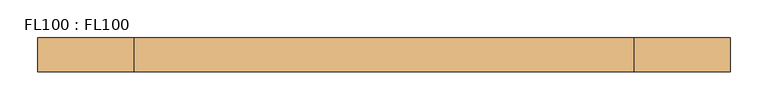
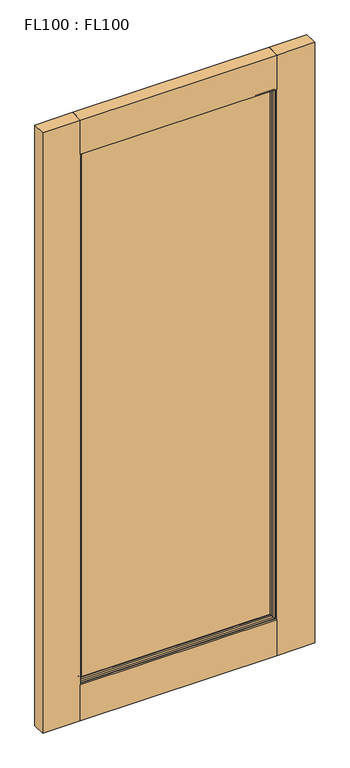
"""IFC4 building model written with IfcOpenShell, lengths in millimetres: door geometry, FL100 : FL100."""

from ifc_helpers import new_model, si_unit, frame, origin, origin_with_axes, place, context, project, spatial, polyline, ellipse_curve, outline, extrude, source, transform, mapped, element, save
from ifc_brep_helpers import plane_surface, cylinder_surface, revolved_surface, advanced_brep


def fl100_fl100_24e7efae(model_context):
    return source(origin(), model_context, "Body", "SolidModel", [
        extrude(outline(polyline([(787.4, 44.45), (787.4, 0.0), (127.0, 0.0), (127.0, 44.45), (787.4, 44.45)])), frame((0.0, 0.0, 2011.7389588), z_axis=(0.0, 0.0, 1.0), x_axis=(1.0, 0.0, 0.0)), (0.0, 0.0, 1.0), 121.8610412),
        extrude(outline(polyline([(787.4, 44.45), (787.4, 0.0), (127.0, 0.0), (127.0, 44.45), (787.4, 44.45)])), origin_with_axes(), (0.0, 0.0, 1.0), 127.0),
        extrude(outline(polyline([(127.0, 19.05), (127.0, 25.4), (787.4, 25.4), (787.4, 19.05), (127.0, 19.05)])), frame((0.0, 0.0, 127.0), z_axis=(0.0, 0.0, 1.0), x_axis=(1.0, 0.0, 0.0)), (0.0, 0.0, 1.0), 1884.7389588),
        extrude(outline(polyline([(127.0, 44.45), (127.0, 0.0), (0.0, 0.0), (0.0, 44.45), (127.0, 44.45)])), origin_with_axes(), (0.0, 0.0, 1.0), 2133.6),
        extrude(outline(polyline([(914.4, 44.45), (914.4, 0.0), (787.4, 0.0), (787.4, 44.45), (914.4, 44.45)])), origin_with_axes(), (0.0, 0.0, 1.0), 2133.6),
        advanced_brep(
        [(787.4, 6.35, 2011.7389588), (787.4, 6.35, 127.0), (787.4, 19.05, 127.0), (787.4, 19.05, 2011.7389588), (774.7, 19.05, 1999.0389588), (774.7, 19.05, 139.7), (774.7, 15.875, 139.7), (774.7, 15.875, 1999.0389588), (127.0, 6.35, 127.0), (127.0, 19.05, 127.0), (139.7, 19.05, 139.7), (139.7, 15.875, 139.7), (127.0, 6.35, 2011.7389588), (127.0, 19.05, 2011.7389588), (139.7, 19.05, 1999.0389588), (139.7, 15.875, 1999.0389588), (784.225, 6.35, 2008.5639588), (784.225, 6.35, 130.175), (130.175, 6.35, 130.175), (130.175, 6.35, 2008.5639588), (781.98115, 10.2364622, 2006.3201088), (781.98115, 10.2364622, 132.41885), (778.5864622, 13.63115, 2002.925421), (778.5864622, 13.63115, 135.8135378), (132.41885, 10.2364622, 132.41885), (135.8135378, 13.63115, 135.8135378), (132.41885, 10.2364622, 2006.3201088), (135.8135378, 13.63115, 2002.925421)],
        [
            (0, 1),
            (1, 2),
            (2, 3),
            (3, 0),
            (4, 5),
            (5, 6),
            (6, 7),
            (7, 4),
            (1, 8),
            (8, 9),
            (9, 2),
            (5, 10),
            (10, 11),
            (11, 6),
            (8, 12),
            (12, 13),
            (13, 9),
            (10, 14),
            (14, 15),
            (15, 11),
            (13, 3),
            (4, 14),
            (12, 0),
            (16, 17),
            (17, 18),
            (18, 19),
            (19, 16),
            (7, 15),
            (20, 21),
            (21, 17, ellipse_curve(frame((779.316688, 6.1071596, 135.083312), z_axis=(-0.7071067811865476, 0.0, -0.7071067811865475), x_axis=(0.7071067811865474, 0.0, -0.7071067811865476)), 6.9498918, 4.9143156)),
            (16, 20, ellipse_curve(frame((779.316688, 6.1071596, 2003.6556468), z_axis=(-0.7071067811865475, 0.0, 0.7071067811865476), x_axis=(-0.7071067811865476, 0.0, -0.7071067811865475)), 6.9498918, 4.9143156)),
            (22, 23),
            (23, 21, ellipse_curve(frame((788.1558944, 19.8058944, 126.2441056), z_axis=(0.7071067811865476, 0.0, 0.7071067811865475), x_axis=(-0.7071067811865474, 0.0, 0.7071067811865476)), 16.1059927, 11.3886566)),
            (20, 22, ellipse_curve(frame((788.1558944, 19.8058944, 2012.4948532), z_axis=(0.7071067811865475, 0.0, -0.7071067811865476), x_axis=(0.7071067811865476, 0.0, 0.7071067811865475)), 16.1059927, 11.3886566)),
            (6, 23, ellipse_curve(frame((774.4571596, 10.966688, 139.9428404), z_axis=(-0.7071067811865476, 0.0, -0.7071067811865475), x_axis=(0.7071067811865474, 0.0, -0.7071067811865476)), 6.9498918, 4.9143156)),
            (22, 7, ellipse_curve(frame((774.4571596, 10.966688, 1998.7961184), z_axis=(-0.7071067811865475, 0.0, 0.7071067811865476), x_axis=(-0.7071067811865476, 0.0, -0.7071067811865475)), 6.9498918, 4.9143156)),
            (21, 24),
            (24, 18, ellipse_curve(frame((135.083312, 6.1071596, 135.083312), z_axis=(-0.7071067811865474, 0.0, 0.7071067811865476), x_axis=(-0.7071067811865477, 0.0, -0.7071067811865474)), 6.9498918, 4.9143156)),
            (23, 25),
            (25, 24, ellipse_curve(frame((126.2441056, 19.8058944, 126.2441056), z_axis=(0.7071067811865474, 0.0, -0.7071067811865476), x_axis=(0.7071067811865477, 0.0, 0.7071067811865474)), 16.1059927, 11.3886566)),
            (11, 25, ellipse_curve(frame((139.9428404, 10.966688, 139.9428404), z_axis=(-0.7071067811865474, 0.0, 0.7071067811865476), x_axis=(-0.7071067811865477, 0.0, -0.7071067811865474)), 6.9498918, 4.9143156)),
            (24, 26),
            (26, 19, ellipse_curve(frame((135.083312, 6.1071596, 2003.6556468), z_axis=(0.7071067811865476, 0.0, 0.7071067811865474), x_axis=(-0.7071067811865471, 0.0, 0.7071067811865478)), 6.9498918, 4.9143156)),
            (25, 27),
            (27, 26, ellipse_curve(frame((126.2441056, 19.8058944, 2012.4948532), z_axis=(-0.7071067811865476, 0.0, -0.7071067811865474), x_axis=(0.7071067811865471, 0.0, -0.7071067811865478)), 16.1059927, 11.3886566)),
            (15, 27, ellipse_curve(frame((139.9428404, 10.966688, 1998.7961184), z_axis=(0.7071067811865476, 0.0, 0.7071067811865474), x_axis=(-0.7071067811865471, 0.0, 0.7071067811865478)), 6.9498918, 4.9143156)),
            (26, 20),
            (27, 22),
        ],
        [
            plane_surface(frame((787.4, 19.05, 2011.7389588), z_axis=(1.0, 0.0, 0.0), x_axis=(0.0, 0.0, -1.0))),
            plane_surface(frame((774.7, 15.875, 1999.0389588), z_axis=(-1.0, 0.0, 0.0), x_axis=(0.0, 0.0, -1.0))),
            plane_surface(frame((787.4, 19.05, 127.0), z_axis=(0.0, 0.0, -1.0), x_axis=(-1.0, 0.0, 0.0))),
            plane_surface(frame((774.7, 15.875, 139.7), z_axis=(0.0, 0.0, 1.0), x_axis=(-1.0, 0.0, 0.0))),
            plane_surface(frame((127.0, 19.05, 127.0), z_axis=(-1.0, 0.0, 0.0), x_axis=(0.0, 0.0, 1.0))),
            plane_surface(frame((139.7, 15.875, 139.7), z_axis=(1.0, 0.0, 0.0), x_axis=(0.0, 0.0, 1.0))),
            plane_surface(frame((139.7, 19.05, 1999.0389588), z_axis=(0.0, 1.0, 0.0), x_axis=(1.0, 0.0, 0.0))),
            plane_surface(frame((127.0, 19.05, 2011.7389588), z_axis=(0.0, 0.0, 1.0), x_axis=(1.0, 0.0, 0.0))),
            plane_surface(frame((127.0, 6.35, 2011.7389588), z_axis=(0.0, -1.0, 0.0), x_axis=(1.0, 0.0, 0.0))),
            plane_surface(frame((139.7, 15.875, 1999.0389588), z_axis=(0.0, 0.0, -1.0), x_axis=(1.0, 0.0, 0.0))),
            revolved_surface(polyline([(774.4023724, 6.1071596, 130.1689963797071), (774.4023724, 6.1071596, 2008.569962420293)]), (779.316688, 6.1071596, 2011.7389588), (0.0, 0.0, -1.0)),
            cylinder_surface(frame((788.1558944, 19.8058944, 2011.7389588), z_axis=(0.0, 0.0, 1.0), x_axis=(-1.0, 0.0, 0.0)), 11.3886566),
            revolved_surface(polyline([(769.542844, 10.966688, 135.02852477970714), (769.542844, 10.966688, 2003.710434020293)]), (774.4571596, 10.966688, 2011.7389588), (0.0, 0.0, -1.0)),
            revolved_surface(polyline([(130.1689963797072, 6.1071596, 139.99762760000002), (784.2310036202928, 6.1071596, 139.99762760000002)]), (787.4, 6.1071596, 135.083312), (-1.0, 0.0, 0.0)),
            cylinder_surface(frame((787.4, 19.8058944, 126.2441056), z_axis=(1.0, 0.0, 0.0), x_axis=(0.0, 0.0, 1.0)), 11.3886566),
            revolved_surface(polyline([(135.02852477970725, 10.966688, 144.857156), (779.3714752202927, 10.966688, 144.857156)]), (787.4, 10.966688, 139.9428404), (-1.0, 0.0, 0.0)),
            revolved_surface(polyline([(139.99762760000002, 6.1071596, 2008.569962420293), (139.99762760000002, 6.1071596, 130.16899637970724)]), (135.083312, 6.1071596, 127.0), (0.0, 0.0, 1.0)),
            cylinder_surface(frame((126.2441056, 19.8058944, 127.0), z_axis=(0.0, 0.0, -1.0), x_axis=(1.0, 0.0, 0.0)), 11.3886566),
            revolved_surface(polyline([(144.857156, 10.966688, 2003.710434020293), (144.857156, 10.966688, 135.02852477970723)]), (139.9428404, 10.966688, 127.0), (0.0, 0.0, 1.0)),
            revolved_surface(polyline([(784.2310036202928, 6.1071596, 1998.7413312), (130.16899637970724, 6.1071596, 1998.7413312)]), (127.0, 6.1071596, 2003.6556468), (1.0, 0.0, 0.0)),
            cylinder_surface(frame((127.0, 19.8058944, 2012.4948532), z_axis=(-1.0, 0.0, 0.0), x_axis=(0.0, 0.0, -1.0)), 11.3886566),
            revolved_surface(polyline([(779.3714752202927, 10.966688, 1993.8818028), (135.02852477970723, 10.966688, 1993.8818028)]), (127.0, 10.966688, 1998.7961184), (1.0, 0.0, 0.0)),
        ],
        [
            (0, [[1, 2, 3, 4]]),
            (1, [[5, 6, 7, 8]]),
            (2, [[9, 10, 11, -2]]),
            (3, [[12, 13, 14, -6]]),
            (4, [[15, 16, 17, -10]]),
            (5, [[18, 19, 20, -13]]),
            (6, [[-3, -11, -17, 21], [-5, 22, -18, -12]]),
            (7, [[23, -4, -21, -16]]),
            (8, [[-1, -23, -15, -9], [24, 25, 26, 27]]),
            (9, [[-22, -8, 28, -19]]),
            (10, [[29, 30, -24, 31]]),
            (11, [[32, 33, -29, 34]]),
            (12, [[-7, 35, -32, 36]]),
            (13, [[37, 38, -25, -30]]),
            (14, [[39, 40, -37, -33]]),
            (15, [[-14, 41, -39, -35]]),
            (16, [[42, 43, -26, -38]]),
            (17, [[44, 45, -42, -40]]),
            (18, [[-20, 46, -44, -41]]),
            (19, [[47, -31, -27, -43]]),
            (20, [[48, -34, -47, -45]]),
            (21, [[-28, -36, -48, -46]]),
        ],
    ),
        advanced_brep(
        [(774.7, 28.575, 1999.0389588), (774.7, 28.575, 139.7), (774.7, 25.4, 139.7), (774.7, 25.4, 1999.0389588), (787.4, 25.4, 2011.7389588), (787.4, 25.4, 127.0), (787.4, 38.1, 127.0), (787.4, 38.1, 2011.7389588), (139.7, 28.575, 139.7), (139.7, 25.4, 139.7), (127.0, 25.4, 127.0), (127.0, 38.1, 127.0), (139.7, 28.575, 1999.0389588), (139.7, 25.4, 1999.0389588), (127.0, 25.4, 2011.7389588), (127.0, 38.1, 2011.7389588), (784.225, 38.1, 130.175), (784.225, 38.1, 2008.5639588), (130.175, 38.1, 2008.5639588), (130.175, 38.1, 130.175), (778.5864622, 30.81885, 2002.925421), (778.5864622, 30.81885, 135.8135378), (781.98115, 34.2135378, 2006.3201088), (781.98115, 34.2135378, 132.41885), (135.8135378, 30.81885, 135.8135378), (132.41885, 34.2135378, 132.41885), (135.8135378, 30.81885, 2002.925421), (132.41885, 34.2135378, 2006.3201088)],
        [
            (0, 1),
            (1, 2),
            (2, 3),
            (3, 0),
            (4, 5),
            (5, 6),
            (6, 7),
            (7, 4),
            (1, 8),
            (8, 9),
            (9, 2),
            (5, 10),
            (10, 11),
            (11, 6),
            (8, 12),
            (12, 13),
            (13, 9),
            (10, 14),
            (14, 15),
            (15, 11),
            (12, 0),
            (3, 13),
            (15, 7),
            (16, 17),
            (17, 18),
            (18, 19),
            (19, 16),
            (14, 4),
            (20, 21),
            (21, 1, ellipse_curve(frame((774.4571596, 33.483312, 139.9428404), z_axis=(-0.7071067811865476, 0.0, -0.7071067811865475), x_axis=(0.7071067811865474, 0.0, -0.7071067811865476)), 6.9498918, 4.9143156)),
            (0, 20, ellipse_curve(frame((774.4571596, 33.483312, 1998.7961184), z_axis=(-0.7071067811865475, 0.0, 0.7071067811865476), x_axis=(-0.7071067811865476, 0.0, -0.7071067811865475)), 6.9498918, 4.9143156)),
            (22, 23),
            (23, 21, ellipse_curve(frame((788.1558944, 24.6441056, 126.2441056), z_axis=(0.7071067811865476, 0.0, 0.7071067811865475), x_axis=(-0.7071067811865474, 0.0, 0.7071067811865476)), 16.1059927, 11.3886566)),
            (20, 22, ellipse_curve(frame((788.1558944, 24.6441056, 2012.4948532), z_axis=(0.7071067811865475, 0.0, -0.7071067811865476), x_axis=(0.7071067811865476, 0.0, 0.7071067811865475)), 16.1059927, 11.3886566)),
            (16, 23, ellipse_curve(frame((779.316688, 38.3428404, 135.083312), z_axis=(-0.7071067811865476, 0.0, -0.7071067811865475), x_axis=(0.7071067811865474, 0.0, -0.7071067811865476)), 6.9498918, 4.9143156)),
            (22, 17, ellipse_curve(frame((779.316688, 38.3428404, 2003.6556468), z_axis=(-0.7071067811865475, 0.0, 0.7071067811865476), x_axis=(-0.7071067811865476, 0.0, -0.7071067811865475)), 6.9498918, 4.9143156)),
            (21, 24),
            (24, 8, ellipse_curve(frame((139.9428404, 33.483312, 139.9428404), z_axis=(-0.7071067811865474, 0.0, 0.7071067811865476), x_axis=(-0.7071067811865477, 0.0, -0.7071067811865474)), 6.9498918, 4.9143156)),
            (23, 25),
            (25, 24, ellipse_curve(frame((126.2441056, 24.6441056, 126.2441056), z_axis=(0.7071067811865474, 0.0, -0.7071067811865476), x_axis=(0.7071067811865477, 0.0, 0.7071067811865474)), 16.1059927, 11.3886566)),
            (19, 25, ellipse_curve(frame((135.083312, 38.3428404, 135.083312), z_axis=(-0.7071067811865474, 0.0, 0.7071067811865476), x_axis=(-0.7071067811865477, 0.0, -0.7071067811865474)), 6.9498918, 4.9143156)),
            (24, 26),
            (26, 12, ellipse_curve(frame((139.9428404, 33.483312, 1998.7961184), z_axis=(0.7071067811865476, 0.0, 0.7071067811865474), x_axis=(-0.7071067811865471, 0.0, 0.7071067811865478)), 6.9498918, 4.9143156)),
            (25, 27),
            (27, 26, ellipse_curve(frame((126.2441056, 24.6441056, 2012.4948532), z_axis=(-0.7071067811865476, 0.0, -0.7071067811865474), x_axis=(0.7071067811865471, 0.0, -0.7071067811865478)), 16.1059927, 11.3886566)),
            (18, 27, ellipse_curve(frame((135.083312, 38.3428404, 2003.6556468), z_axis=(0.7071067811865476, 0.0, 0.7071067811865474), x_axis=(-0.7071067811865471, 0.0, 0.7071067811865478)), 6.9498918, 4.9143156)),
            (26, 20),
            (27, 22),
        ],
        [
            plane_surface(frame((774.7, 25.4, 1999.0389588), z_axis=(-1.0, 0.0, 0.0), x_axis=(0.0, 0.0, -1.0))),
            plane_surface(frame((787.4, 38.1, 2011.7389588), z_axis=(1.0, 0.0, 0.0), x_axis=(0.0, 0.0, -1.0))),
            plane_surface(frame((774.7, 25.4, 139.7), z_axis=(0.0, 0.0, 1.0), x_axis=(-1.0, 0.0, 0.0))),
            plane_surface(frame((787.4, 38.1, 127.0), z_axis=(0.0, 0.0, -1.0), x_axis=(-1.0, 0.0, 0.0))),
            plane_surface(frame((139.7, 25.4, 139.7), z_axis=(1.0, 0.0, 0.0), x_axis=(0.0, 0.0, 1.0))),
            plane_surface(frame((127.0, 38.1, 127.0), z_axis=(-1.0, 0.0, 0.0), x_axis=(0.0, 0.0, 1.0))),
            plane_surface(frame((139.7, 25.4, 1999.0389588), z_axis=(0.0, 0.0, -1.0), x_axis=(1.0, 0.0, 0.0))),
            plane_surface(frame((130.175, 38.1, 2008.5639588), z_axis=(0.0, 1.0, 0.0), x_axis=(1.0, 0.0, 0.0))),
            plane_surface(frame((127.0, 38.1, 2011.7389588), z_axis=(0.0, 0.0, 1.0), x_axis=(1.0, 0.0, 0.0))),
            plane_surface(frame((127.0, 25.4, 2011.7389588), z_axis=(0.0, -1.0, 0.0), x_axis=(1.0, 0.0, 0.0))),
            revolved_surface(polyline([(769.542844, 33.483312, 135.02852477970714), (769.542844, 33.483312, 2003.710434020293)]), (774.4571596, 33.483312, 2011.7389588), (0.0, 0.0, -1.0)),
            cylinder_surface(frame((788.1558944, 24.6441056, 2011.7389588), z_axis=(0.0, 0.0, 1.0), x_axis=(-1.0, 0.0, 0.0)), 11.3886566),
            revolved_surface(polyline([(774.4023724, 38.3428404, 130.1689963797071), (774.4023724, 38.3428404, 2008.569962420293)]), (779.316688, 38.3428404, 2011.7389588), (0.0, 0.0, -1.0)),
            revolved_surface(polyline([(135.02852477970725, 33.483312, 144.857156), (779.3714752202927, 33.483312, 144.857156)]), (787.4, 33.483312, 139.9428404), (-1.0, 0.0, 0.0)),
            cylinder_surface(frame((787.4, 24.6441056, 126.2441056), z_axis=(1.0, 0.0, 0.0), x_axis=(0.0, 0.0, 1.0)), 11.3886566),
            revolved_surface(polyline([(130.1689963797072, 38.3428404, 139.99762760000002), (784.2310036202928, 38.3428404, 139.99762760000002)]), (787.4, 38.3428404, 135.083312), (-1.0, 0.0, 0.0)),
            revolved_surface(polyline([(144.857156, 33.483312, 2003.710434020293), (144.857156, 33.483312, 135.02852477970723)]), (139.9428404, 33.483312, 127.0), (0.0, 0.0, 1.0)),
            cylinder_surface(frame((126.2441056, 24.6441056, 127.0), z_axis=(0.0, 0.0, -1.0), x_axis=(1.0, 0.0, 0.0)), 11.3886566),
            revolved_surface(polyline([(139.99762760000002, 38.3428404, 2008.569962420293), (139.99762760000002, 38.3428404, 130.16899637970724)]), (135.083312, 38.3428404, 127.0), (0.0, 0.0, 1.0)),
            revolved_surface(polyline([(779.3714752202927, 33.483312, 1993.8818028), (135.02852477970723, 33.483312, 1993.8818028)]), (127.0, 33.483312, 1998.7961184), (1.0, 0.0, 0.0)),
            cylinder_surface(frame((127.0, 24.6441056, 2012.4948532), z_axis=(-1.0, 0.0, 0.0), x_axis=(0.0, 0.0, -1.0)), 11.3886566),
            revolved_surface(polyline([(784.2310036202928, 38.3428404, 1998.7413312), (130.16899637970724, 38.3428404, 1998.7413312)]), (127.0, 38.3428404, 2003.6556468), (1.0, 0.0, 0.0)),
        ],
        [
            (0, [[1, 2, 3, 4]]),
            (1, [[5, 6, 7, 8]]),
            (2, [[9, 10, 11, -2]]),
            (3, [[12, 13, 14, -6]]),
            (4, [[15, 16, 17, -10]]),
            (5, [[18, 19, 20, -13]]),
            (6, [[21, -4, 22, -16]]),
            (7, [[-7, -14, -20, 23], [24, 25, 26, 27]]),
            (8, [[28, -8, -23, -19]]),
            (9, [[-5, -28, -18, -12], [-3, -11, -17, -22]]),
            (10, [[29, 30, -1, 31]]),
            (11, [[32, 33, -29, 34]]),
            (12, [[-24, 35, -32, 36]]),
            (13, [[37, 38, -9, -30]]),
            (14, [[39, 40, -37, -33]]),
            (15, [[-27, 41, -39, -35]]),
            (16, [[42, 43, -15, -38]]),
            (17, [[44, 45, -42, -40]]),
            (18, [[-26, 46, -44, -41]]),
            (19, [[47, -31, -21, -43]]),
            (20, [[48, -34, -47, -45]]),
            (21, [[-25, -36, -48, -46]]),
        ],
    ),
    ])


if __name__ == "__main__":
    model = new_model("IFC4")
    model_context = context("Model", 3, world=origin())
    ifc_project = project(units=[si_unit("LENGTHUNIT", "METRE", prefix="MILLI")], contexts=[model_context])
    site = spatial("IfcSite", under=ifc_project)
    building = spatial("IfcBuilding", under=site)
    placement = place(None, origin())
    fl100_fl100_shape = fl100_fl100_24e7efae(model_context)
    element("IfcDoor", 1, ObjectType="FL100 : FL100", at=placement, inside=building, context=model_context, shape_type="MappedRepresentation", body=[
        mapped(fl100_fl100_shape, transform((0.0, 0.0, 0.0), x_axis=(1.0, 0.0, 0.0), y_axis=(0.0, 1.0, 0.0), z_axis=(0.0, 0.0, 1.0))),
    ])
    save(model, "model.ifc")
